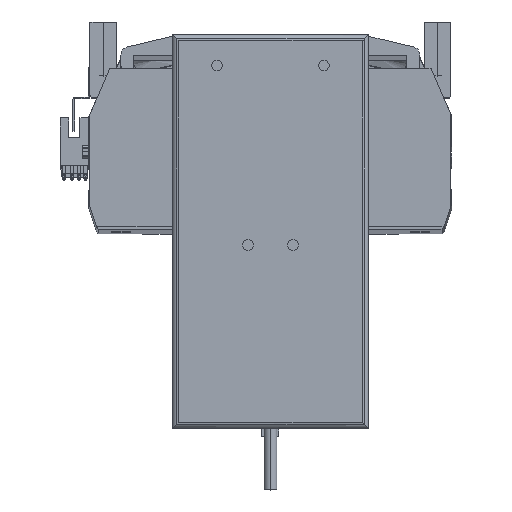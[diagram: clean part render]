
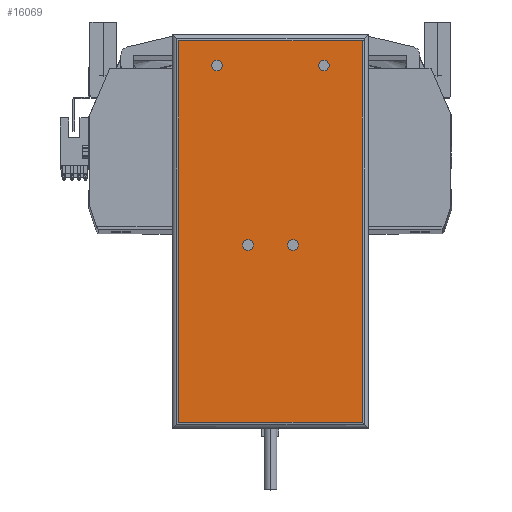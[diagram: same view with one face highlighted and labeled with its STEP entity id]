
A CAD part, top view. The second image highlights one B-rep face of the part: STEP entity #16069.
In plain terms, the highlighted planar face has unit normal (0, 0, 1) as drawn and (0, 0, -1) by its records, which use the part's own axes.
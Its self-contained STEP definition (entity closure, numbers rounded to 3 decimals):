
#852 = EDGE_LOOP ( 'NONE', ( #21281, #9254 ) ) ;
#1107 = DIRECTION ( 'NONE',  ( -1., 0., 0. ) ) ;
#1390 = VECTOR ( 'NONE', #45757, 1000. ) ;
#1469 = AXIS2_PLACEMENT_3D ( 'NONE', #29051, #48605, #48265 ) ;
#1872 = CARTESIAN_POINT ( 'NONE',  ( -25., 77.75, 0. ) ) ;
#2111 = LINE ( 'NONE', #2160, #41785 ) ;
#2160 = CARTESIAN_POINT ( 'NONE',  ( -46., -89.25, 0. ) ) ;
#2740 = EDGE_CURVE ( 'NONE', #11960, #44032, #4619, .T. ) ;
#2865 = CARTESIAN_POINT ( 'NONE',  ( -13., -6.25, 0. ) ) ;
#3087 = EDGE_CURVE ( 'NONE', #9466, #15293, #2111, .T. ) ;
#4126 = ORIENTED_EDGE ( 'NONE', *, *, #31088, .T. ) ;
#4619 = CIRCLE ( 'NONE', #37815, 2.5 ) ;
#4986 = EDGE_CURVE ( 'NONE', #21384, #9466, #8775, .T. ) ;
#5116 = CIRCLE ( 'NONE', #1469, 2.5 ) ;
#5184 = DIRECTION ( 'NONE',  ( -1., 0., 0. ) ) ;
#6918 = ORIENTED_EDGE ( 'NONE', *, *, #12624, .T. ) ;
#7911 = DIRECTION ( 'NONE',  ( 1., 0., 0. ) ) ;
#8073 = CARTESIAN_POINT ( 'NONE',  ( -46., -92.25, 0. ) ) ;
#8775 = LINE ( 'NONE', #30544, #21615 ) ;
#8957 = CARTESIAN_POINT ( 'NONE',  ( -22.5, 77.75, 0. ) ) ;
#9067 = ORIENTED_EDGE ( 'NONE', *, *, #4986, .T. ) ;
#9254 = ORIENTED_EDGE ( 'NONE', *, *, #46874, .F. ) ;
#9377 = AXIS2_PLACEMENT_3D ( 'NONE', #9503, #12921, #24577 ) ;
#9466 = VERTEX_POINT ( 'NONE', #49061 ) ;
#9503 = CARTESIAN_POINT ( 'NONE',  ( 25., 77.75, 0. ) ) ;
#10551 = CARTESIAN_POINT ( 'NONE',  ( -8., -6.25, 0. ) ) ;
#11270 = DIRECTION ( 'NONE',  ( 0., -1., 0. ) ) ;
#11960 = VERTEX_POINT ( 'NONE', #37346 ) ;
#11989 = CARTESIAN_POINT ( 'NONE',  ( 25., 77.75, 0. ) ) ;
#12286 = FACE_BOUND ( 'NONE', #34275, .T. ) ;
#12624 = EDGE_CURVE ( 'NONE', #15293, #45253, #30712, .T. ) ;
#12921 = DIRECTION ( 'NONE',  ( 0., 0., -1. ) ) ;
#13619 = DIRECTION ( 'NONE',  ( 0., 0., -1. ) ) ;
#13876 = DIRECTION ( 'NONE',  ( -1., 0., 0. ) ) ;
#14039 = AXIS2_PLACEMENT_3D ( 'NONE', #8073, #15557, #7911 ) ;
#14569 = EDGE_CURVE ( 'NONE', #45571, #38135, #31144, .T. ) ;
#15293 = VERTEX_POINT ( 'NONE', #47733 ) ;
#15557 = DIRECTION ( 'NONE',  ( 0., 0., 1. ) ) ;
#15562 = ORIENTED_EDGE ( 'NONE', *, *, #42468, .F. ) ;
#16069 = ADVANCED_FACE ( 'NONE', ( #25734, #22693, #43987, #33642, #12286 ), #31260, .F. ) ;
#16298 = ORIENTED_EDGE ( 'NONE', *, *, #2740, .F. ) ;
#17151 = EDGE_CURVE ( 'NONE', #38135, #45571, #41507, .T. ) ;
#17965 = AXIS2_PLACEMENT_3D ( 'NONE', #11989, #35168, #39250 ) ;
#18639 = CARTESIAN_POINT ( 'NONE',  ( -43., -92.25, 0. ) ) ;
#18811 = CARTESIAN_POINT ( 'NONE',  ( 43., 89.25, 0. ) ) ;
#19504 = CARTESIAN_POINT ( 'NONE',  ( 27.5, 77.75, 0. ) ) ;
#20079 = EDGE_LOOP ( 'NONE', ( #16298, #31781 ) ) ;
#20255 = EDGE_LOOP ( 'NONE', ( #9067, #26666, #6918, #4126 ) ) ;
#21076 = EDGE_CURVE ( 'NONE', #32727, #45043, #29575, .T. ) ;
#21281 = ORIENTED_EDGE ( 'NONE', *, *, #21076, .F. ) ;
#21384 = VERTEX_POINT ( 'NONE', #18811 ) ;
#21433 = VERTEX_POINT ( 'NONE', #31252 ) ;
#21615 = VECTOR ( 'NONE', #11270, 1000. ) ;
#21935 = DIRECTION ( 'NONE',  ( 0., 0., -1. ) ) ;
#22693 = FACE_BOUND ( 'NONE', #852, .T. ) ;
#24577 = DIRECTION ( 'NONE',  ( -1., 0., 0. ) ) ;
#25529 = DIRECTION ( 'NONE',  ( 0., 0., -1. ) ) ;
#25734 = FACE_OUTER_BOUND ( 'NONE', #20255, .T. ) ;
#26230 = CARTESIAN_POINT ( 'NONE',  ( 8., -6.25, 0. ) ) ;
#26666 = ORIENTED_EDGE ( 'NONE', *, *, #3087, .T. ) ;
#28385 = DIRECTION ( 'NONE',  ( 0., 0., -1. ) ) ;
#28586 = CIRCLE ( 'NONE', #17965, 2.5 ) ;
#29051 = CARTESIAN_POINT ( 'NONE',  ( -10.5, -6.25, 0. ) ) ;
#29194 = EDGE_CURVE ( 'NONE', #46644, #21433, #36326, .T. ) ;
#29575 = CIRCLE ( 'NONE', #34896, 2.5 ) ;
#30544 = CARTESIAN_POINT ( 'NONE',  ( 43., -92.25, 0. ) ) ;
#30712 = LINE ( 'NONE', #18639, #1390 ) ;
#31088 = EDGE_CURVE ( 'NONE', #45253, #21384, #32496, .T. ) ;
#31144 = CIRCLE ( 'NONE', #32269, 2.5 ) ;
#31252 = CARTESIAN_POINT ( 'NONE',  ( 22.5, 77.75, 0. ) ) ;
#31260 = PLANE ( 'NONE',  #14039 ) ;
#31781 = ORIENTED_EDGE ( 'NONE', *, *, #50260, .F. ) ;
#32269 = AXIS2_PLACEMENT_3D ( 'NONE', #47608, #21935, #49168 ) ;
#32478 = CARTESIAN_POINT ( 'NONE',  ( -10.5, -6.25, 0. ) ) ;
#32496 = LINE ( 'NONE', #43605, #36819 ) ;
#32727 = VERTEX_POINT ( 'NONE', #2865 ) ;
#33642 = FACE_BOUND ( 'NONE', #20079, .T. ) ;
#33688 = CARTESIAN_POINT ( 'NONE',  ( 10.5, -6.25, 0. ) ) ;
#34275 = EDGE_LOOP ( 'NONE', ( #15562, #50527 ) ) ;
#34896 = AXIS2_PLACEMENT_3D ( 'NONE', #32478, #43569, #1107 ) ;
#35168 = DIRECTION ( 'NONE',  ( 0., 0., -1. ) ) ;
#35364 = CARTESIAN_POINT ( 'NONE',  ( 13., -6.25, 0. ) ) ;
#36326 = CIRCLE ( 'NONE', #9377, 2.5 ) ;
#36819 = VECTOR ( 'NONE', #47676, 1000. ) ;
#37277 = AXIS2_PLACEMENT_3D ( 'NONE', #33688, #25529, #13876 ) ;
#37346 = CARTESIAN_POINT ( 'NONE',  ( -27.5, 77.75, 0. ) ) ;
#37755 = CIRCLE ( 'NONE', #40454, 2.5 ) ;
#37815 = AXIS2_PLACEMENT_3D ( 'NONE', #1872, #13619, #48387 ) ;
#38135 = VERTEX_POINT ( 'NONE', #35364 ) ;
#39250 = DIRECTION ( 'NONE',  ( -1., 0., 0. ) ) ;
#39646 = CARTESIAN_POINT ( 'NONE',  ( -43., 89.25, 0. ) ) ;
#40454 = AXIS2_PLACEMENT_3D ( 'NONE', #47754, #28385, #5184 ) ;
#40694 = EDGE_LOOP ( 'NONE', ( #48306, #48678 ) ) ;
#41507 = CIRCLE ( 'NONE', #37277, 2.5 ) ;
#41785 = VECTOR ( 'NONE', #48676, 1000. ) ;
#42468 = EDGE_CURVE ( 'NONE', #21433, #46644, #28586, .T. ) ;
#43569 = DIRECTION ( 'NONE',  ( 0., 0., -1. ) ) ;
#43605 = CARTESIAN_POINT ( 'NONE',  ( -46., 89.25, 0. ) ) ;
#43987 = FACE_BOUND ( 'NONE', #40694, .T. ) ;
#44032 = VERTEX_POINT ( 'NONE', #8957 ) ;
#45043 = VERTEX_POINT ( 'NONE', #10551 ) ;
#45253 = VERTEX_POINT ( 'NONE', #39646 ) ;
#45571 = VERTEX_POINT ( 'NONE', #26230 ) ;
#45757 = DIRECTION ( 'NONE',  ( 0., 1., 0. ) ) ;
#46644 = VERTEX_POINT ( 'NONE', #19504 ) ;
#46874 = EDGE_CURVE ( 'NONE', #45043, #32727, #5116, .T. ) ;
#47608 = CARTESIAN_POINT ( 'NONE',  ( 10.5, -6.25, 0. ) ) ;
#47676 = DIRECTION ( 'NONE',  ( 1., 0., 0. ) ) ;
#47733 = CARTESIAN_POINT ( 'NONE',  ( -43., -89.25, 0. ) ) ;
#47754 = CARTESIAN_POINT ( 'NONE',  ( -25., 77.75, 0. ) ) ;
#48265 = DIRECTION ( 'NONE',  ( -1., 0., 0. ) ) ;
#48306 = ORIENTED_EDGE ( 'NONE', *, *, #14569, .F. ) ;
#48387 = DIRECTION ( 'NONE',  ( -1., 0., 0. ) ) ;
#48605 = DIRECTION ( 'NONE',  ( 0., 0., -1. ) ) ;
#48676 = DIRECTION ( 'NONE',  ( -1., 0., 0. ) ) ;
#48678 = ORIENTED_EDGE ( 'NONE', *, *, #17151, .F. ) ;
#49061 = CARTESIAN_POINT ( 'NONE',  ( 43., -89.25, 0. ) ) ;
#49168 = DIRECTION ( 'NONE',  ( -1., 0., 0. ) ) ;
#50260 = EDGE_CURVE ( 'NONE', #44032, #11960, #37755, .T. ) ;
#50527 = ORIENTED_EDGE ( 'NONE', *, *, #29194, .F. ) ;
